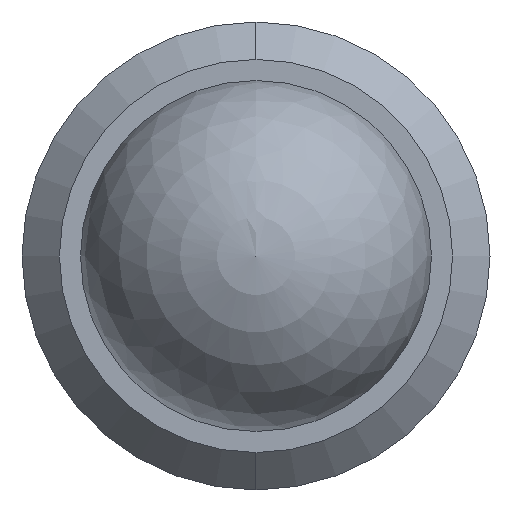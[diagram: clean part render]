
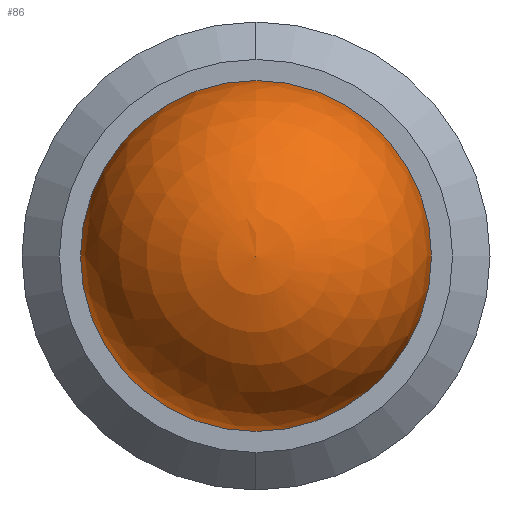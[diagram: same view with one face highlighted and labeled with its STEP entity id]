
A CAD part, left-side view. The second image highlights one B-rep face of the part: STEP entity #86.
In plain terms, the highlighted spherical face has radius 2.381 mm.
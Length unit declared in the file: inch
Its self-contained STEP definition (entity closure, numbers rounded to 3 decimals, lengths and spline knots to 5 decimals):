
#60 = CARTESIAN_POINT ( 'NONE',  ( 0., -0.09375, 0. ) ) ;
#86 = ADVANCED_FACE ( 'NONE', ( #350 ), #246, .T. ) ;
#106 = CARTESIAN_POINT ( 'NONE',  ( 0., 0.09375, 0. ) ) ;
#109 = CARTESIAN_POINT ( 'NONE',  ( 0., 0., 0. ) ) ;
#156 = AXIS2_PLACEMENT_3D ( 'NONE', #487, #440, #431 ) ;
#171 = CARTESIAN_POINT ( 'NONE',  ( 0., 0., 0. ) ) ;
#193 = EDGE_LOOP ( 'NONE', ( #324, #294 ) ) ;
#212 = AXIS2_PLACEMENT_3D ( 'NONE', #109, #252, #218 ) ;
#218 = DIRECTION ( 'NONE',  ( 0., 0., -1. ) ) ;
#246 = SPHERICAL_SURFACE ( 'NONE', #316, 0.09375 ) ;
#252 = DIRECTION ( 'NONE',  ( 1., 0., 0. ) ) ;
#261 = CIRCLE ( 'NONE', #156, 0.09375 ) ;
#294 = ORIENTED_EDGE ( 'NONE', *, *, #485, .T. ) ;
#299 = EDGE_CURVE ( 'NONE', #580, #339, #491, .T. ) ;
#316 = AXIS2_PLACEMENT_3D ( 'NONE', #171, #592, #475 ) ;
#324 = ORIENTED_EDGE ( 'NONE', *, *, #299, .F. ) ;
#339 = VERTEX_POINT ( 'NONE', #60 ) ;
#350 = FACE_OUTER_BOUND ( 'NONE', #193, .T. ) ;
#431 = DIRECTION ( 'NONE',  ( 0., 0., 1. ) ) ;
#440 = DIRECTION ( 'NONE',  ( -1., 0., 0. ) ) ;
#475 = DIRECTION ( 'NONE',  ( 0., 0., 1. ) ) ;
#485 = EDGE_CURVE ( 'NONE', #580, #339, #261, .T. ) ;
#487 = CARTESIAN_POINT ( 'NONE',  ( 0., 0., 0. ) ) ;
#491 = CIRCLE ( 'NONE', #212, 0.09375 ) ;
#580 = VERTEX_POINT ( 'NONE', #106 ) ;
#592 = DIRECTION ( 'NONE',  ( -1., 0., 0. ) ) ;
